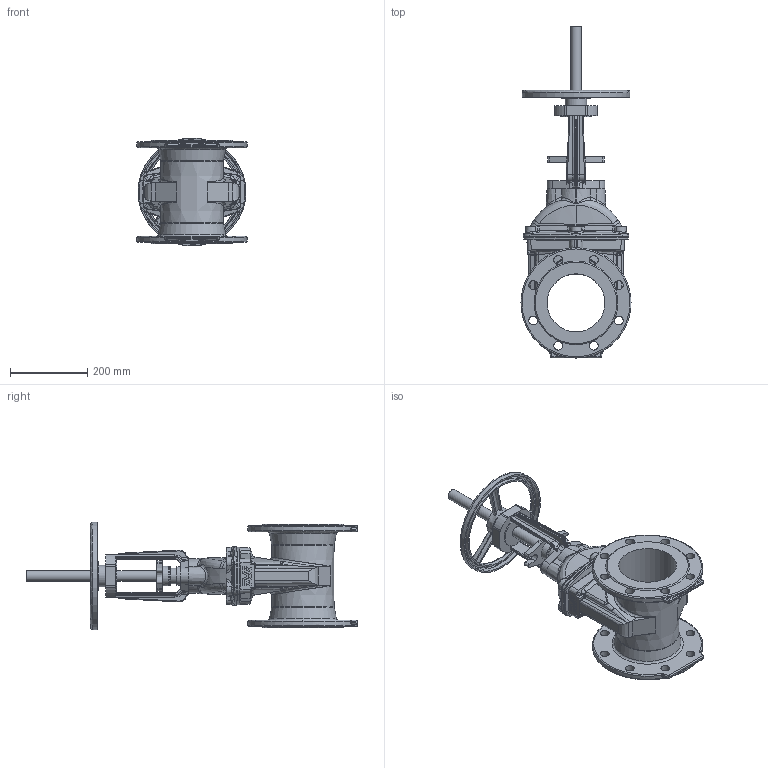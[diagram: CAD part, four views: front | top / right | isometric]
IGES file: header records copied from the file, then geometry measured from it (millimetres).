
Start section: SolidWorks IGES file using analytic representation for surfaces
Global section: file name: \\avksan2\techshare\PBM outline export from Enovia\O_21_34_DN150_41XXXXX open_AA0.igs; native system: SolidWorks 2012; preprocessor: SolidWorks 2012; author: pbm; date: 200212.101152; units: millimetre
Bounding box: 285 x 859.87 x 279.74 mm (x, y, z)
Surface area: 862838.9 mm2 (no closed solid volume)
Topology: 0 solids, 0 shells, 860 faces, 4450 edges, 4343 vertices
Faces by surface type: bspline 469, revolution 391
